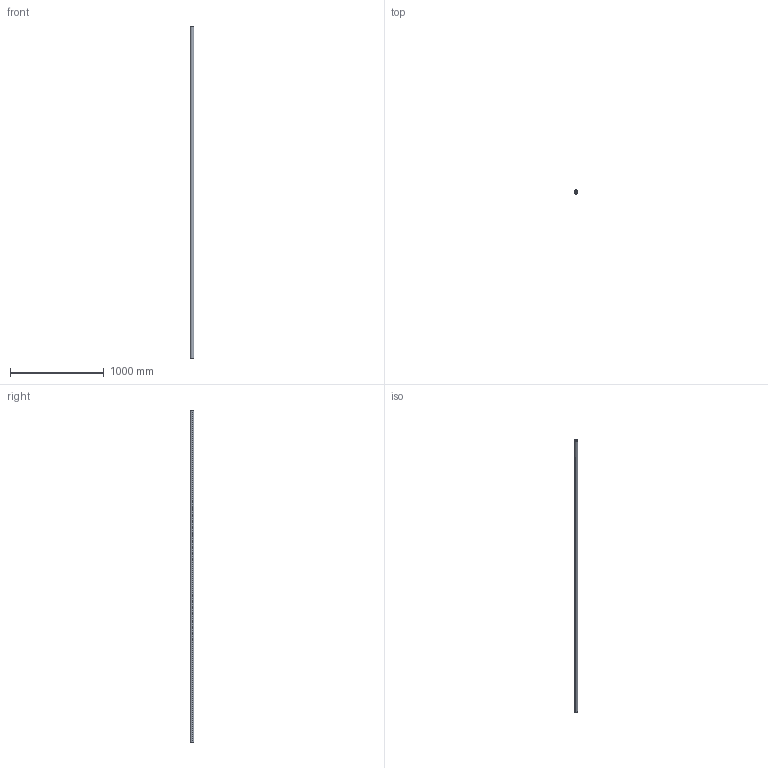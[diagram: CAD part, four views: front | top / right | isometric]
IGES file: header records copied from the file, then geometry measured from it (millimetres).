
Start section: SolidWorks IGES file using analytic representation for surfaces
Global section: file name: C:\Users\IanO\Desktop\L1771_v2\L1771.40_v2\L1771.40_v2_20230705_IGES\L1771.40-3550.igs; native system: SolidWorks 2019; preprocessor: SolidWorks 2019; author: IanO; date: 230705.161942; units: millimetre
Bounding box: 40 x 40 x 3550 mm (x, y, z)
Surface area: 759662.2 mm2 (no closed solid volume)
Topology: 0 solids, 0 shells, 6 faces, 272 edges, 272 vertices
Faces by surface type: revolution 4, bspline 2
